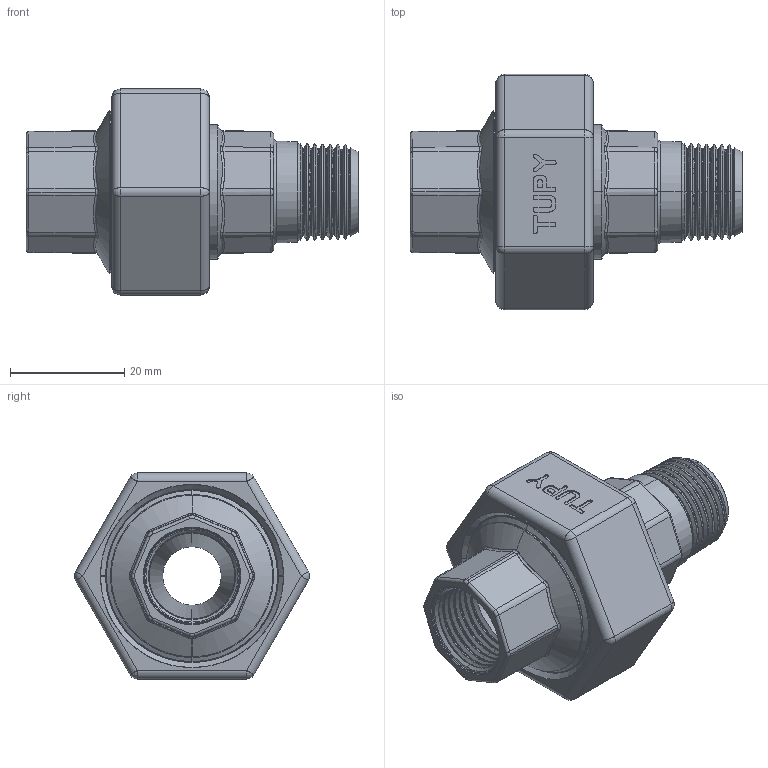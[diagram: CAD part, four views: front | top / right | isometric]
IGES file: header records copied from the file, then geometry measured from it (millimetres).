
Start section: SolidWorks IGES file using analytic representation for surfaces
Global section: file name: C:\Users\Joel Rosa\Desktop\Tubulação\12-65-X\12-65-003.IGS; native system: SolidWorks 2011; preprocessor: SolidWorks 2011; author: Joel Rosa; date: 130721.193737; units: millimetre
Bounding box: 58 x 41.11 x 36 mm (x, y, z)
Surface area: 14778.6 mm2 (no closed solid volume)
Topology: 0 solids, 0 shells, 540 faces, 4328 edges, 4320 vertices
Faces by surface type: bspline 333, revolution 207
